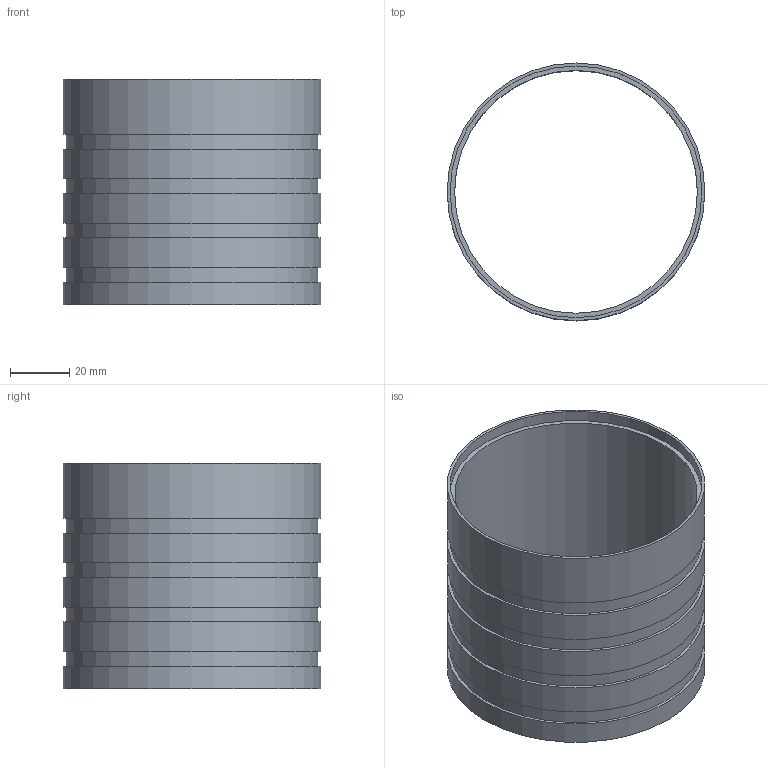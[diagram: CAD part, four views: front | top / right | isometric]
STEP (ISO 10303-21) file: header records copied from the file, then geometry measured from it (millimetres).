
FILE_DESCRIPTION(/* description */ ('Unknown'),/* implementation_level */ '2;1');
FILE_NAME(/* name */ 'E83252',/* time_stamp */ '2023-02-07T11:22:50+01:00',/* author */ ('Unknown'),/* organization */ ('Unknown'),/* preprocessor_version */ 'ST-DEVELOPER v18.1',/* originating_system */ 'Solid Edge',/* authorisation */ 'Unknown');
FILE_SCHEMA (('AUTOMOTIVE_DESIGN {1 0 10303 214 3 1 1}'));
Length unit declared in the file: millimetre
Products named in the file (1): LED-CAS201
Bounding box: 87 x 87 x 76 mm (x, y, z)
Volume: 43539.5 mm3; surface area: 43749.5 mm2
Topology: 1 solids, 1 shells, 22 faces, 33 edges, 22 vertices
Faces by surface type: cylinder 11, plane 11
Full cylindrical faces by diameter (mm): 82 x1, 85 x5, 87 x5
Entity records: 478 total; most frequent: DIRECTION 90, CARTESIAN_POINT 67, AXIS2_PLACEMENT_3D 45, ORIENTED_EDGE 44, EDGE_LOOP 44, FACE_BOUND 44, EDGE_CURVE 22, VERTEX_POINT 22
